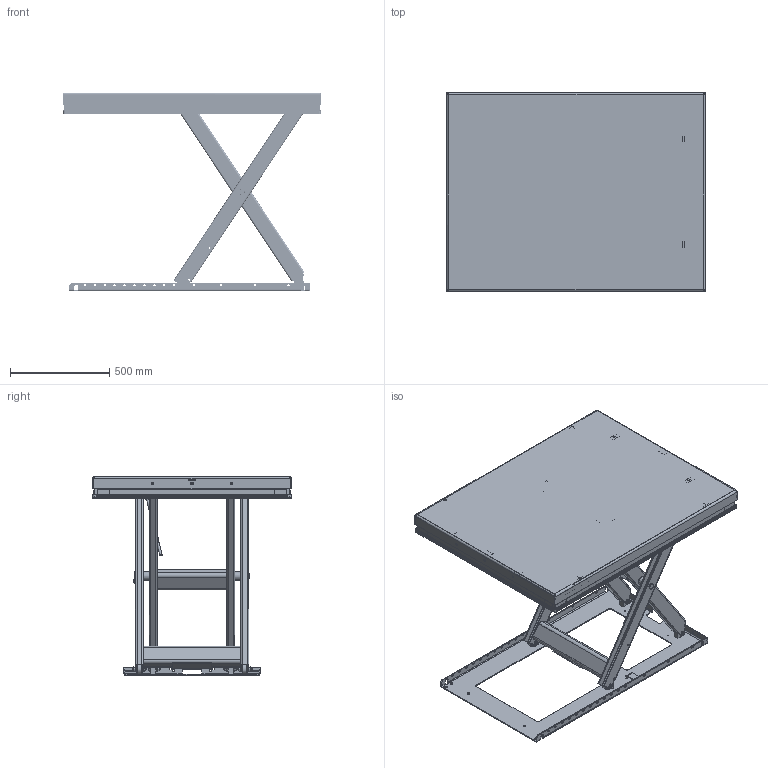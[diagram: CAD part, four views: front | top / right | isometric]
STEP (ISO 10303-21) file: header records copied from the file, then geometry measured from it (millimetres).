
FILE_DESCRIPTION(/* description */ ('Bottenram '),/* implementation_level */ '2;1');
FILE_NAME(/* name */ '\\EDMOFILE01\Users$\JOAED\Desktop\TL 1000XB (32925)\32925_Raised.stp',/* time_stamp */ '2016-02-19T12:48:56+01:00',/* author */ ('joaed'),/* organization */ (''),/* preprocessor_version */ 'ST-DEVELOPER v15.6',/* originating_system */ 'Autodesk Inventor 2015',/* authorisation */ '');
FILE_SCHEMA (('AUTOMOTIVE_DESIGN { 1 0 10303 214 3 1 1 }'));
Products named in the file (59): 611365; 45258; 44681; 611364; 44411; 83230-580; 43785; 43744; 34827; 83228-200; 32903; 43743; 34816; 44669; 34815; 82156; ISO 4017 - M10 x 20ISO; 34977; 32081; 42394; ISO 4016 - M8 x 45; 32080C; 42289-953; 42289-1273; 42330; 42331; 33991; 44283; 44280; 44279; 44282; ISO 7089 - 5 - 140 HV(1); 84253; 44281-1; ISO 2009 - M4 x 12ISO 7,9; 44281; 84076; 83928; 44277; 44278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
Assembly tree (122 placements, depth 5):
  32925C
    611364
      611365
      45258  x2
      44681  x2
    34977
      43785
        44411
        83230-580
      32903
        43744
        34827  x2
        83228-200
      34815
        43743
        34816  x2
        44669  x2
      82156  x2
      ISO 4017 - M10 x 20ISO
    32080C
      32081
      45258  x2
      42394  x2
      ISO 4016 - M8 x 45  x4
    601559
      42289-953  x2
      42289-1273  x2
      42330  x4
      42331  x4
      33990  x2
        33991
        44283
        44280
        44279
        44282
        ISO 7089 - 5 - 140 HV(1)
        84253
        44281
          44281-1
          ISO 2009 - M4 x 12ISO 7,9
        84076
        83928
        44277
        44278
        33992
        ISO 7380 - M4 x 10
      43476  x4
      43481  x4
      ISO 4032 - M8ISO  x4
    42584  x4
    42513  x4
    42401  x2
    42663
      42663_Welds
      42662
      82553-395
    83242  x3
    83241  x5
    80476  x8
    84409  x10
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Bounding box: 1300 x 1000 x 1000 mm (x, y, z)
Volume: 17741095.9 mm3; surface area: 8340777 mm2
Topology: 134 solids, 134 shells, 5519 faces, 14655 edges, 9525 vertices
Faces by surface type: plane 2780, cylinder 1883, bspline 524, cone 206, torus 78, sphere 48
Full cylindrical faces by diameter (mm): 0.474 x2, 1 x4, 3 x4, 3.141 x4, 3.2 x4, 3.242 x4, 4 x14, 4.3 x4, 4.9 x2, 5 x4, 5.2 x6, 5.3 x4, 5.55 x2, 6.647 x4, 6.8 x8, 7.4 x6, 7.6 x4, 8 x10, 8.376 x8, 8.5 x4, 9 x1, 10 x19, 10.2 x16, 10.5 x23, 11 x8, 12 x5, 12.5 x2, 13 x10, 14.63 x9, 16 x14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
Entity records: 89385 total; most frequent: CARTESIAN_POINT 23441, ORIENTED_EDGE 13590, DIRECTION 12947, EDGE_CURVE 6793, VERTEX_POINT 4549, AXIS2_PLACEMENT_3D 4364, LINE 4219, VECTOR 4219
